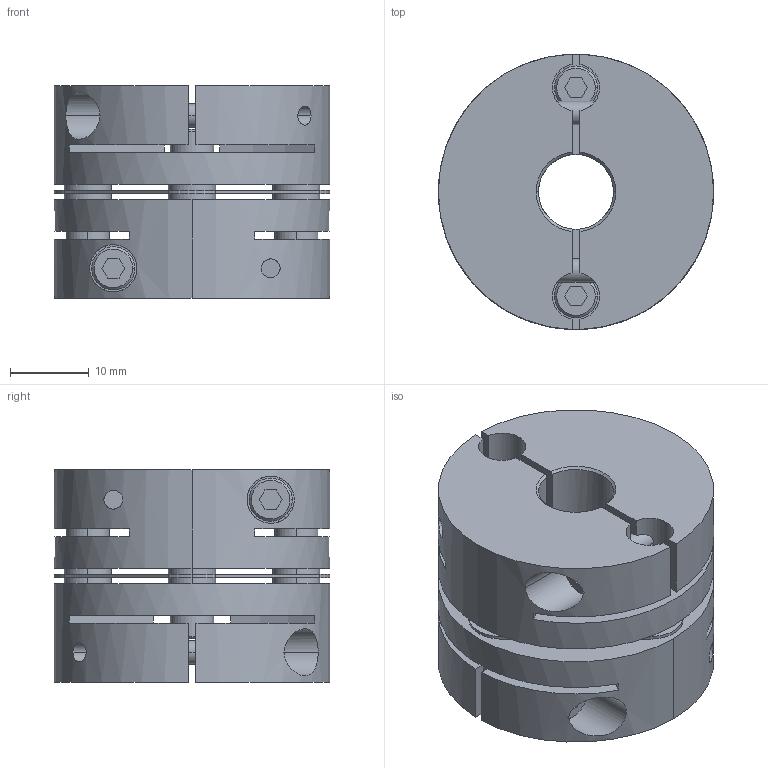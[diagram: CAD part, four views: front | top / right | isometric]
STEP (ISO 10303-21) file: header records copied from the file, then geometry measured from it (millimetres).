
FILE_DESCRIPTION((''),'2;1');
FILE_NAME('LAS-35C-9.525×12.stp','2015-10-14T15:29:32',(''),(''),'AutoCAD STEP 2000i','AutoCAD 2000i',', , ');
FILE_SCHEMA(('CONFIG_CONTROL_DESIGN'));
Length unit declared in the file: millimetre
Products named in the file (5): LAS-35C-8×8; 忣兜1; LA-3502-D08-1; LA-3502-D08; LAS35-ITA
Assembly tree (4 placements, depth 2):
  LAS-35C-8×8
    忣兜1
    LA-3502-D08-1
    LA-3502-D08
    LAS35-ITA
Bounding box: 35 x 35 x 27 mm (x, y, z)
Volume: 19494.4 mm3; surface area: 12042.8 mm2
Topology: 1 solids, 1 shells, 236 faces, 624 edges, 408 vertices
Faces by surface type: plane 112, cylinder 96, cone 28
Entity records: 8143 total; most frequent: CARTESIAN_POINT 1949, DIRECTION 1302, ORIENTED_EDGE 1248, EDGE_CURVE 624, AXIS2_PLACEMENT_3D 477, VERTEX_POINT 408, VECTOR 348, LINE 348
